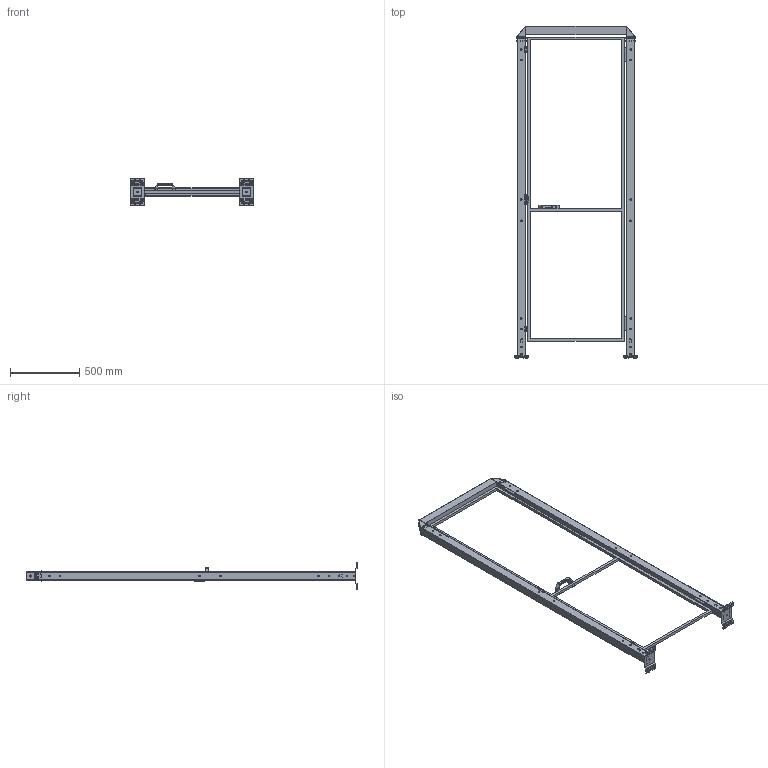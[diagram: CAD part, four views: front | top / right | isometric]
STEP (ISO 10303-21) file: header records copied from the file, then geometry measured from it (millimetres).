
FILE_DESCRIPTION(('STEP AP242'),'1');
FILE_NAME('vfda_bscndr2_07002320.stp','2025-01-23T12:37:36',('TraceParts'),('TraceParts S.A.'),'Spatial InterOp 3D',' ',' ');
FILE_SCHEMA(('AP242_MANAGED_MODEL_BASED_3D_ENGINEERING_MIM_LF {1 0 10303 442 1 1 4}'));
Length unit declared in the file: millimetre
Products named in the file (1): vfda_bscndr2_07002320_1
Bounding box: 890 x 2401 x 192 mm (x, y, z)
Volume: 4864232.7 mm3; surface area: 3256836.2 mm2
Topology: 12 solids, 12 shells, 1874 faces, 5016 edges, 3212 vertices
Faces by surface type: plane 906, cylinder 628, bspline 236, cone 60, torus 40, sphere 4
Entity records: 75648 total; most frequent: CARTESIAN_POINT 13827, ORIENTED_EDGE 10024, DIRECTION 9202, EDGE_CURVE 5012, VERTEX_POINT 3212, LINE 3072, VECTOR 3072, AXIS2_PLACEMENT_3D 3065
